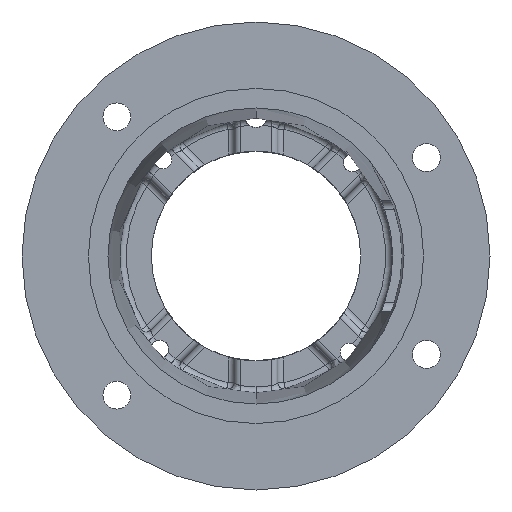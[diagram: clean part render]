
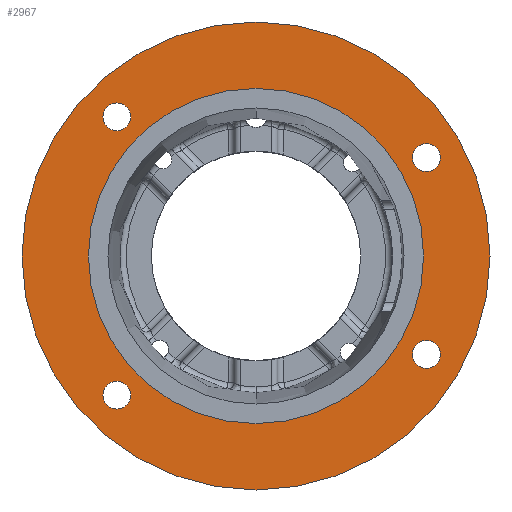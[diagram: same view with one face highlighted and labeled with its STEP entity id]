
A CAD part, front view. The second image highlights one B-rep face of the part: STEP entity #2967.
In plain terms, the highlighted planar face has unit normal (0, -1, 0).
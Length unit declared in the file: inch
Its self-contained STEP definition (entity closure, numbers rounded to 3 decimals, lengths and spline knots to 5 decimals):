
#108 = CARTESIAN_POINT ( 'NONE',  ( 0., 0., 0. ) ) ;
#423 = EDGE_LOOP ( 'NONE', ( #9656, #10766 ) ) ;
#476 = VERTEX_POINT ( 'NONE', #1355 ) ;
#765 = EDGE_LOOP ( 'NONE', ( #4606, #10963 ) ) ;
#797 = DIRECTION ( 'NONE',  ( 0., -1., 0. ) ) ;
#874 = FACE_BOUND ( 'NONE', #423, .T. ) ;
#957 = DIRECTION ( 'NONE',  ( 0., 0., -1. ) ) ;
#1013 = ORIENTED_EDGE ( 'NONE', *, *, #8477, .T. ) ;
#1213 = DIRECTION ( 'NONE',  ( 0., 0., -1. ) ) ;
#1248 = DIRECTION ( 'NONE',  ( 0., -1., 0. ) ) ;
#1355 = CARTESIAN_POINT ( 'NONE',  ( 0., 0., 5.5 ) ) ;
#1410 = AXIS2_PLACEMENT_3D ( 'NONE', #5326, #12797, #6439 ) ;
#1413 = DIRECTION ( 'NONE',  ( 0., -1., 0. ) ) ;
#1559 = EDGE_CURVE ( 'NONE', #5969, #2223, #5425, .T. ) ;
#1641 = EDGE_CURVE ( 'NONE', #476, #1893, #5103, .T. ) ;
#1760 = DIRECTION ( 'NONE',  ( 0., -1., 0. ) ) ;
#1893 = VERTEX_POINT ( 'NONE', #13548 ) ;
#1957 = CARTESIAN_POINT ( 'NONE',  ( -3.27037, 0., 3.59849 ) ) ;
#1965 = ORIENTED_EDGE ( 'NONE', *, *, #11266, .F. ) ;
#2201 = CIRCLE ( 'NONE', #12968, 0.32812 ) ;
#2223 = VERTEX_POINT ( 'NONE', #11213 ) ;
#2383 = AXIS2_PLACEMENT_3D ( 'NONE', #7894, #1413, #8981 ) ;
#2604 = CIRCLE ( 'NONE', #4259, 0.32812 ) ;
#2967 = ADVANCED_FACE ( 'NONE', ( #9506, #4084, #3749, #874, #6639, #11919 ), #7786, .F. ) ;
#3034 = EDGE_CURVE ( 'NONE', #2223, #5969, #3389, .T. ) ;
#3172 = CARTESIAN_POINT ( 'NONE',  ( 4.00537, 0., -2.64063 ) ) ;
#3224 = AXIS2_PLACEMENT_3D ( 'NONE', #7709, #7542, #7365 ) ;
#3389 = CIRCLE ( 'NONE', #3963, 0.32812 ) ;
#3622 = EDGE_CURVE ( 'NONE', #9375, #11425, #2201, .T. ) ;
#3640 = CARTESIAN_POINT ( 'NONE',  ( -3.27037, 0., 2.94224 ) ) ;
#3734 = VERTEX_POINT ( 'NONE', #11998 ) ;
#3749 = FACE_BOUND ( 'NONE', #12155, .T. ) ;
#3782 = CIRCLE ( 'NONE', #7580, 3.9385 ) ;
#3830 = DIRECTION ( 'NONE',  ( 0., 0., -1. ) ) ;
#3923 = DIRECTION ( 'NONE',  ( 0., -1., 0. ) ) ;
#3950 = CARTESIAN_POINT ( 'NONE',  ( 4.00537, 0., 2.3125 ) ) ;
#3963 = AXIS2_PLACEMENT_3D ( 'NONE', #3950, #3923, #3830 ) ;
#3977 = VERTEX_POINT ( 'NONE', #10722 ) ;
#4084 = FACE_BOUND ( 'NONE', #9055, .T. ) ;
#4259 = AXIS2_PLACEMENT_3D ( 'NONE', #13805, #7468, #957 ) ;
#4606 = ORIENTED_EDGE ( 'NONE', *, *, #8716, .F. ) ;
#5103 = CIRCLE ( 'NONE', #13459, 5.5 ) ;
#5326 = CARTESIAN_POINT ( 'NONE',  ( -3.27037, 0., 3.27037 ) ) ;
#5423 = EDGE_CURVE ( 'NONE', #7294, #5530, #7428, .T. ) ;
#5425 = CIRCLE ( 'NONE', #11990, 0.32812 ) ;
#5487 = CARTESIAN_POINT ( 'NONE',  ( 0., 0., 3.9385 ) ) ;
#5530 = VERTEX_POINT ( 'NONE', #3172 ) ;
#5635 = AXIS2_PLACEMENT_3D ( 'NONE', #7309, #797, #8381 ) ;
#5818 = CIRCLE ( 'NONE', #5635, 5.5 ) ;
#5969 = VERTEX_POINT ( 'NONE', #6355 ) ;
#6099 = EDGE_CURVE ( 'NONE', #5530, #7294, #6208, .T. ) ;
#6208 = CIRCLE ( 'NONE', #2383, 0.32812 ) ;
#6355 = CARTESIAN_POINT ( 'NONE',  ( 4.00537, 0., 1.98437 ) ) ;
#6371 = EDGE_CURVE ( 'NONE', #11425, #9375, #12689, .T. ) ;
#6421 = DIRECTION ( 'NONE',  ( 0., -1., 0. ) ) ;
#6439 = DIRECTION ( 'NONE',  ( 0., 0., -1. ) ) ;
#6494 = EDGE_CURVE ( 'NONE', #10861, #3734, #9229, .T. ) ;
#6590 = ORIENTED_EDGE ( 'NONE', *, *, #1641, .T. ) ;
#6639 = FACE_BOUND ( 'NONE', #765, .T. ) ;
#7027 = CIRCLE ( 'NONE', #10784, 0.32812 ) ;
#7233 = AXIS2_PLACEMENT_3D ( 'NONE', #7741, #1248, #8821 ) ;
#7268 = DIRECTION ( 'NONE',  ( 0., 0., -1. ) ) ;
#7294 = VERTEX_POINT ( 'NONE', #9734 ) ;
#7309 = CARTESIAN_POINT ( 'NONE',  ( 0., 0., 0. ) ) ;
#7365 = DIRECTION ( 'NONE',  ( 0., 0., 1. ) ) ;
#7383 = VERTEX_POINT ( 'NONE', #10864 ) ;
#7428 = CIRCLE ( 'NONE', #11116, 0.32812 ) ;
#7468 = DIRECTION ( 'NONE',  ( 0., -1., 0. ) ) ;
#7542 = DIRECTION ( 'NONE',  ( 0., 1., 0. ) ) ;
#7548 = DIRECTION ( 'NONE',  ( 0., -1., 0. ) ) ;
#7580 = AXIS2_PLACEMENT_3D ( 'NONE', #108, #7703, #1213 ) ;
#7703 = DIRECTION ( 'NONE',  ( 0., -1., 0. ) ) ;
#7709 = CARTESIAN_POINT ( 'NONE',  ( -5.5, 0., 0. ) ) ;
#7734 = ORIENTED_EDGE ( 'NONE', *, *, #3034, .F. ) ;
#7741 = CARTESIAN_POINT ( 'NONE',  ( 0., 0., 0. ) ) ;
#7766 = CARTESIAN_POINT ( 'NONE',  ( 4.00537, 0., 2.3125 ) ) ;
#7786 = PLANE ( 'NONE',  #3224 ) ;
#7894 = CARTESIAN_POINT ( 'NONE',  ( 4.00537, 0., -2.3125 ) ) ;
#8254 = CARTESIAN_POINT ( 'NONE',  ( 4.00537, 0., -2.3125 ) ) ;
#8378 = ORIENTED_EDGE ( 'NONE', *, *, #10062, .F. ) ;
#8381 = DIRECTION ( 'NONE',  ( 0., 0., -1. ) ) ;
#8477 = EDGE_CURVE ( 'NONE', #1893, #476, #5818, .T. ) ;
#8716 = EDGE_CURVE ( 'NONE', #3734, #10861, #3782, .T. ) ;
#8727 = EDGE_LOOP ( 'NONE', ( #12718, #7734 ) ) ;
#8821 = DIRECTION ( 'NONE',  ( 0., 0., -1. ) ) ;
#8981 = DIRECTION ( 'NONE',  ( 0., 0., -1. ) ) ;
#9055 = EDGE_LOOP ( 'NONE', ( #12134, #12047 ) ) ;
#9229 = CIRCLE ( 'NONE', #7233, 3.9385 ) ;
#9326 = DIRECTION ( 'NONE',  ( 0., 0., -1. ) ) ;
#9373 = DIRECTION ( 'NONE',  ( 0., 0., -1. ) ) ;
#9375 = VERTEX_POINT ( 'NONE', #1957 ) ;
#9422 = DIRECTION ( 'NONE',  ( 0., -1., 0. ) ) ;
#9506 = FACE_BOUND ( 'NONE', #8727, .T. ) ;
#9656 = ORIENTED_EDGE ( 'NONE', *, *, #6371, .F. ) ;
#9734 = CARTESIAN_POINT ( 'NONE',  ( 4.00537, 0., -1.98438 ) ) ;
#10062 = EDGE_CURVE ( 'NONE', #3977, #7383, #7027, .T. ) ;
#10472 = CARTESIAN_POINT ( 'NONE',  ( 0., 0., 0. ) ) ;
#10722 = CARTESIAN_POINT ( 'NONE',  ( -3.27037, 0., -3.59849 ) ) ;
#10766 = ORIENTED_EDGE ( 'NONE', *, *, #3622, .F. ) ;
#10784 = AXIS2_PLACEMENT_3D ( 'NONE', #12788, #6421, #13858 ) ;
#10861 = VERTEX_POINT ( 'NONE', #5487 ) ;
#10864 = CARTESIAN_POINT ( 'NONE',  ( -3.27037, 0., -2.94224 ) ) ;
#10963 = ORIENTED_EDGE ( 'NONE', *, *, #6494, .F. ) ;
#11116 = AXIS2_PLACEMENT_3D ( 'NONE', #8254, #1760, #9326 ) ;
#11213 = CARTESIAN_POINT ( 'NONE',  ( 4.00537, 0., 2.64062 ) ) ;
#11266 = EDGE_CURVE ( 'NONE', #7383, #3977, #2604, .T. ) ;
#11425 = VERTEX_POINT ( 'NONE', #3640 ) ;
#11919 = FACE_OUTER_BOUND ( 'NONE', #13693, .T. ) ;
#11990 = AXIS2_PLACEMENT_3D ( 'NONE', #7766, #7548, #7268 ) ;
#11998 = CARTESIAN_POINT ( 'NONE',  ( 0., 0., -3.9385 ) ) ;
#12047 = ORIENTED_EDGE ( 'NONE', *, *, #5423, .F. ) ;
#12134 = ORIENTED_EDGE ( 'NONE', *, *, #6099, .F. ) ;
#12155 = EDGE_LOOP ( 'NONE', ( #8378, #1965 ) ) ;
#12689 = CIRCLE ( 'NONE', #1410, 0.32812 ) ;
#12718 = ORIENTED_EDGE ( 'NONE', *, *, #1559, .F. ) ;
#12788 = CARTESIAN_POINT ( 'NONE',  ( -3.27037, 0., -3.27037 ) ) ;
#12797 = DIRECTION ( 'NONE',  ( 0., -1., 0. ) ) ;
#12968 = AXIS2_PLACEMENT_3D ( 'NONE', #13393, #13386, #13374 ) ;
#13374 = DIRECTION ( 'NONE',  ( 0., 0., -1. ) ) ;
#13386 = DIRECTION ( 'NONE',  ( 0., -1., 0. ) ) ;
#13393 = CARTESIAN_POINT ( 'NONE',  ( -3.27037, 0., 3.27037 ) ) ;
#13459 = AXIS2_PLACEMENT_3D ( 'NONE', #10472, #9422, #9373 ) ;
#13548 = CARTESIAN_POINT ( 'NONE',  ( 0., 0., -5.5 ) ) ;
#13693 = EDGE_LOOP ( 'NONE', ( #1013, #6590 ) ) ;
#13805 = CARTESIAN_POINT ( 'NONE',  ( -3.27037, 0., -3.27037 ) ) ;
#13858 = DIRECTION ( 'NONE',  ( 0., 0., -1. ) ) ;
